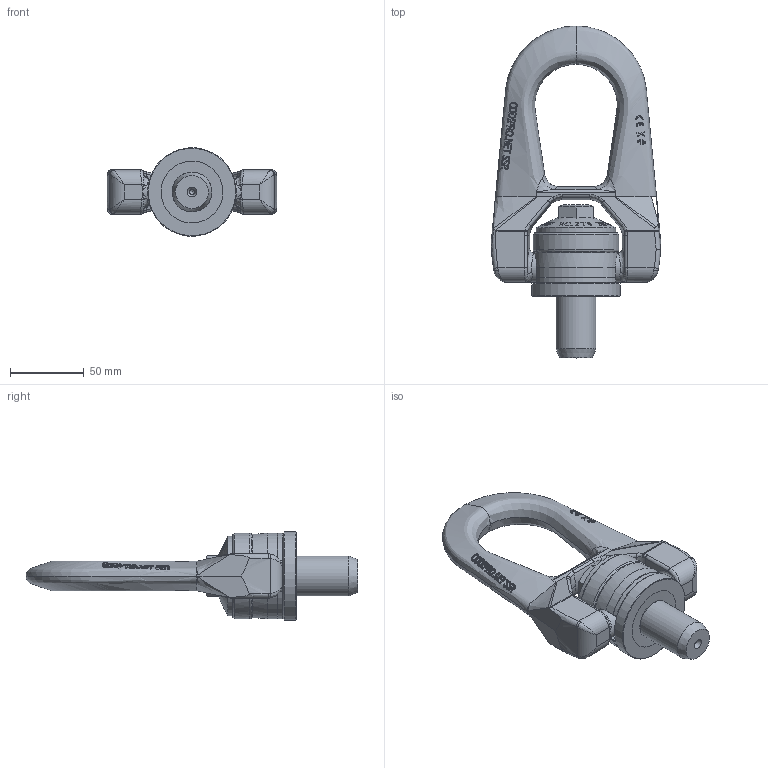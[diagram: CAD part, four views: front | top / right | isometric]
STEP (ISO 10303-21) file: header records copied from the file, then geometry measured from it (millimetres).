
FILE_DESCRIPTION(/* description */ (''),/* implementation_level */ '2;1');
FILE_NAME(/* name */ 'W:\CODIPRO\DOCUMENTS\Plans A NE PAS DIFFUSER !!!\Fichiers STEP\Gamme 2018\Produits NON GRADUP\SS DSR\SS DSR M27.stp',/* time_stamp */ '2017-09-26T13:11:23+02:00',/* author */ ('rklenes'),/* organization */ (''),/* preprocessor_version */ 'ST-DEVELOPER v16.5',/* originating_system */ 'Autodesk Inventor 2017',/* authorisation */ '');
FILE_SCHEMA (('AUTOMOTIVE_DESIGN { 1 0 10303 214 3 1 1 }'));
Products named in the file (5): SS DSR M27; DRM_AF3B; SSB_B3B; DRE_D3M27A; DRA_M27X83
Assembly tree (4 placements, depth 2):
  SS DSR M27
    DRM_AF3B
    SSB_B3B
    DRE_D3M27A
    DRA_M27X83
Bounding box: 115 x 225.25 x 59.81 mm (x, y, z)
Volume: 268896 mm3; surface area: 74908.2 mm2
Topology: 3 solids, 4 shells, 787 faces, 2082 edges, 1340 vertices
Faces by surface type: plane 350, bspline 303, cylinder 70, cone 48, torus 15, sphere 1
Full cylindrical faces by diameter (mm): 3.15 x1, 20 x2, 27 x3, 27.2 x1, 33.6 x2, 34 x2, 46 x1, 54 x1, 58 x1, 60 x1
Entity records: 45270 total; most frequent: CARTESIAN_POINT 28122, ORIENTED_EDGE 4046, DIRECTION 2681, EDGE_CURVE 2023, VERTEX_POINT 1328, AXIS2_PLACEMENT_3D 990, EDGE_LOOP 875, FACE_OUTER_BOUND 786
